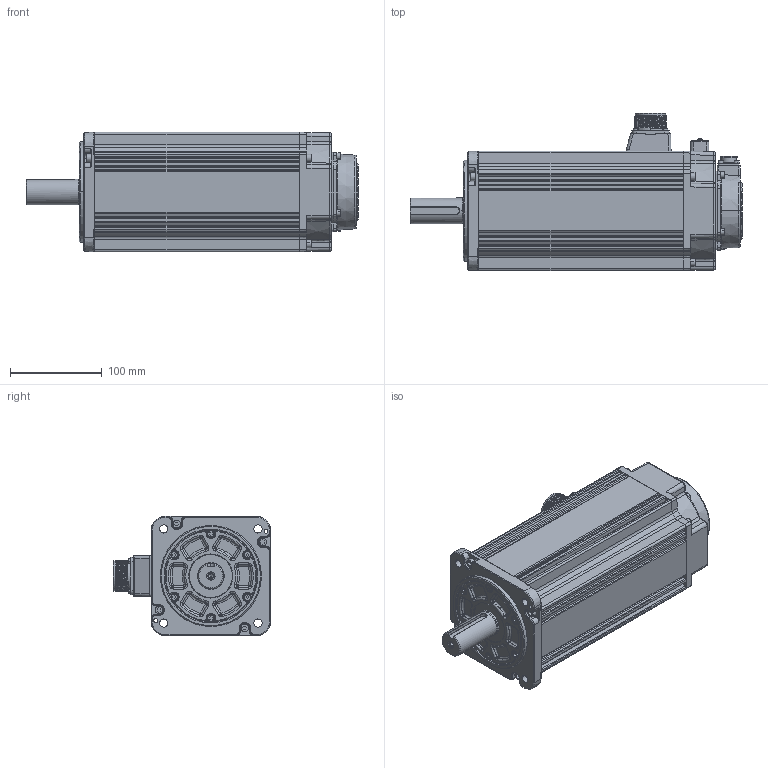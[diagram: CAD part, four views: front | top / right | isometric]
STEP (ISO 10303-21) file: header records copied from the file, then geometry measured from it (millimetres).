
FILE_DESCRIPTION (( 'STEP AP203' ), '1' );
FILE_NAME ('MS6S-130CN30BZ2-45P0.STEP', '2024-07-04T01:26:26', ( '' ), ( '' ), 'SwSTEP 2.0', 'SolidWorks 2022', '' );
FILE_SCHEMA (( 'CONFIG_CONTROL_DESIGN' ));
Length unit declared in the file: millimetre
Products named in the file (1): MS6S-130CN30BZ2-45P0
Bounding box: 361.5 x 171.1 x 130 mm (x, y, z)
Volume: 4261940.7 mm3; surface area: 342996.3 mm2
Topology: 40 solids, 40 shells, 3276 faces, 8473 edges, 5381 vertices
Faces by surface type: plane 1448, cylinder 796, bspline 428, cone 297, torus 291, sphere 16
Entity records: 115393 total; most frequent: CARTESIAN_POINT 39024, ORIENTED_EDGE 16746, DIRECTION 14584, EDGE_CURVE 8373, VERTEX_POINT 5371, AXIS2_PLACEMENT_3D 5127, LINE 4330, VECTOR 4330
